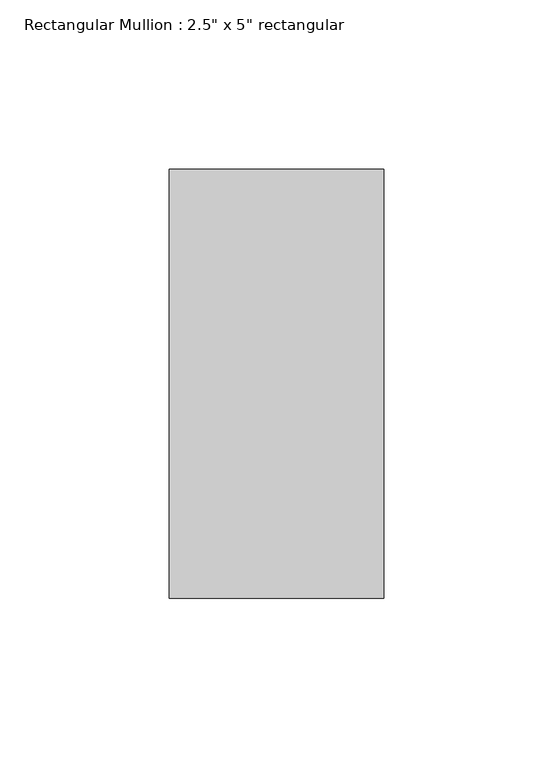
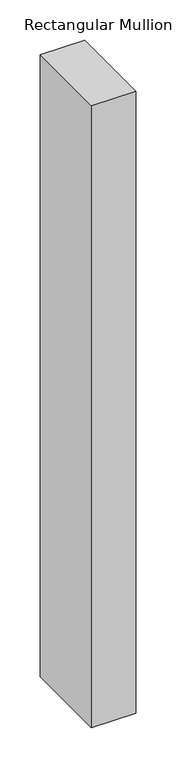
"""IFC4 building model written with IfcOpenShell, lengths in millimetres: member geometry."""

from ifc_helpers import new_model, si_unit, frame, origin, place, context, project, spatial, polyline, outline, extrude, source, transform, mapped, element, save


def member_ab56a4f5(model_context):
    return source(origin(), model_context, "Body", "SweptSolid", [
        extrude(outline(polyline([(31.75, 63.5), (31.75, -63.5), (-31.75, -63.5), (-31.75, 63.5), (31.75, 63.5)])), frame((0.0, 0.0, -943.4285714), z_axis=(0.0, 0.0, 1.0), x_axis=(1.0, 0.0, 0.0)), (0.0, 0.0, 1.0), 943.4285714),
    ])


if __name__ == "__main__":
    model = new_model("IFC4")
    model_context = context("Model", 3, world=origin())
    ifc_project = project(units=[si_unit("LENGTHUNIT", "METRE", prefix="MILLI")], contexts=[model_context])
    site = spatial("IfcSite", under=ifc_project)
    building = spatial("IfcBuilding", under=site)
    placement = place(None, origin())
    member_shape = member_ab56a4f5(model_context)
    element("IfcMember", 1, ObjectType="Rectangular Mullion : 2.5\" x 5\" rectangular", at=placement, inside=building, context=model_context, shape_type="MappedRepresentation", body=[
        mapped(member_shape, transform((0.0, 0.0, 0.0), x_axis=(1.0, 0.0, 0.0), y_axis=(0.0, 1.0, 0.0), z_axis=(0.0, 0.0, 1.0))),
    ])
    save(model, "model.ifc")
